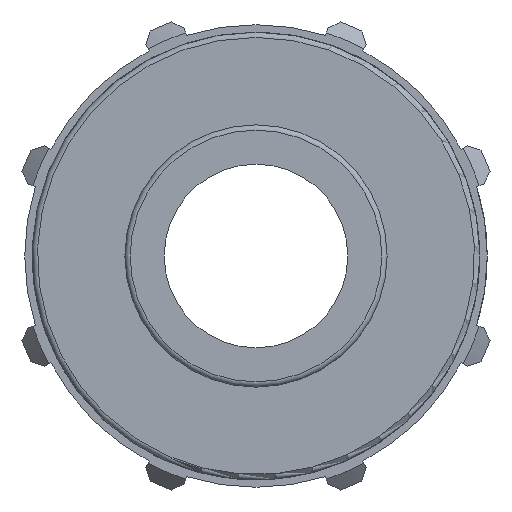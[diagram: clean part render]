
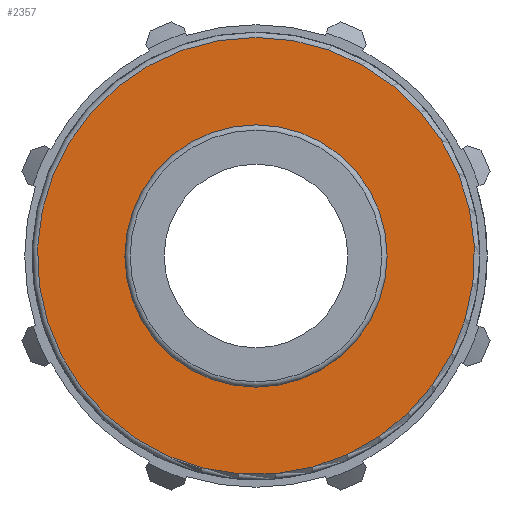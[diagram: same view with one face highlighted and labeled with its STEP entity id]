
A CAD part, left-side view. The second image highlights one B-rep face of the part: STEP entity #2357.
In plain terms, the highlighted planar face has unit normal (-1, 0, 0).
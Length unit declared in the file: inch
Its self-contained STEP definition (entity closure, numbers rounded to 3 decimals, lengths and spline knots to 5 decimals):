
#459=FACE_BOUND('',#683,.T.);
#472=PLANE('',#2549);
#551=FACE_OUTER_BOUND('',#682,.T.);
#682=EDGE_LOOP('',(#1626,#1627));
#683=EDGE_LOOP('',(#1628,#1629));
#797=CIRCLE('',#2489,1.1735);
#798=CIRCLE('',#2490,1.1735);
#835=CIRCLE('',#2547,1.95518);
#836=CIRCLE('',#2548,1.95518);
#920=VERTEX_POINT('',#3411);
#921=VERTEX_POINT('',#3412);
#987=VERTEX_POINT('',#3801);
#988=VERTEX_POINT('',#3803);
#1158=EDGE_CURVE('',#920,#921,#797,.T.);
#1159=EDGE_CURVE('',#921,#920,#798,.T.);
#1246=EDGE_CURVE('',#987,#988,#835,.T.);
#1247=EDGE_CURVE('',#988,#987,#836,.T.);
#1626=ORIENTED_EDGE('',*,*,#1247,.F.);
#1627=ORIENTED_EDGE('',*,*,#1246,.F.);
#1628=ORIENTED_EDGE('',*,*,#1158,.T.);
#1629=ORIENTED_EDGE('',*,*,#1159,.T.);
#2357=ADVANCED_FACE('',(#551,#459),#472,.T.);
#2489=AXIS2_PLACEMENT_3D('',#3413,#2750,#2751);
#2490=AXIS2_PLACEMENT_3D('',#3414,#2752,#2753);
#2547=AXIS2_PLACEMENT_3D('',#3804,#2892,#2893);
#2548=AXIS2_PLACEMENT_3D('',#3805,#2894,#2895);
#2549=AXIS2_PLACEMENT_3D('',#3806,#2896,#2897);
#2750=DIRECTION('center_axis',(1.,0.,0.));
#2751=DIRECTION('ref_axis',(0.,0.,-1.));
#2752=DIRECTION('center_axis',(1.,0.,0.));
#2753=DIRECTION('ref_axis',(0.,0.,-1.));
#2892=DIRECTION('center_axis',(1.,0.,0.));
#2893=DIRECTION('ref_axis',(0.,-0.552,0.834));
#2894=DIRECTION('center_axis',(1.,0.,0.));
#2895=DIRECTION('ref_axis',(0.,-0.552,0.834));
#2896=DIRECTION('center_axis',(-1.,0.,0.));
#2897=DIRECTION('ref_axis',(0.,0.,1.));
#3411=CARTESIAN_POINT('',(1.02,1.1735,0.));
#3412=CARTESIAN_POINT('',(1.02,-1.1735,0.));
#3413=CARTESIAN_POINT('Origin',(1.02,0.,0.));
#3414=CARTESIAN_POINT('Origin',(1.02,0.,0.));
#3801=CARTESIAN_POINT('',(1.02,0.,1.95518));
#3803=CARTESIAN_POINT('',(1.02,1.07871,-1.63068));
#3804=CARTESIAN_POINT('Origin',(1.02,0.,0.));
#3805=CARTESIAN_POINT('Origin',(1.02,0.,0.));
#3806=CARTESIAN_POINT('Origin',(1.02,2.0025,0.));
